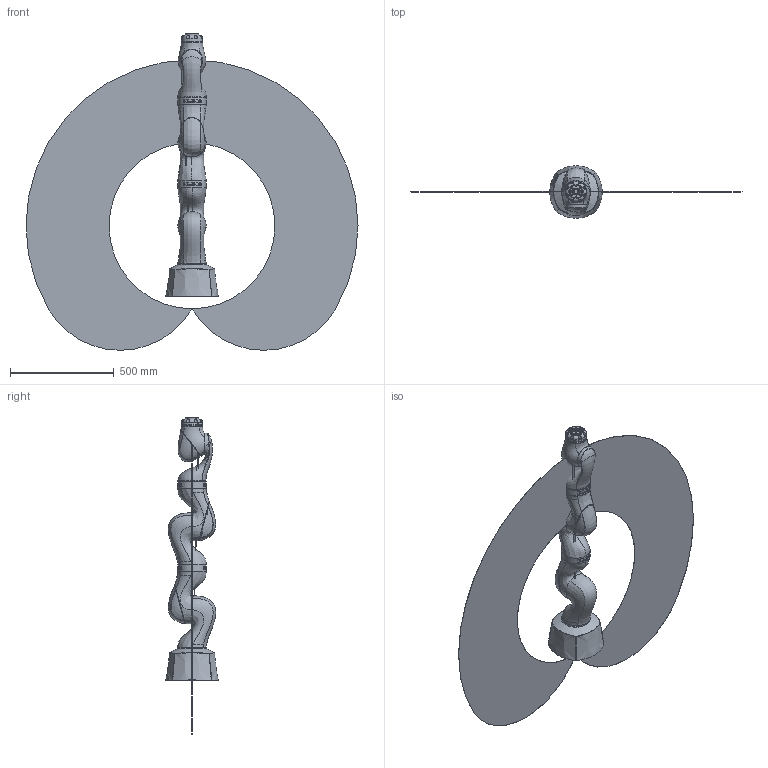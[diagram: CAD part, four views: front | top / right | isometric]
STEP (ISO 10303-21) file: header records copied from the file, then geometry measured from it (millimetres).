
FILE_DESCRIPTION(/* description */ (''),/* implementation_level */ '2;1');
FILE_NAME(/* name */ 'LBR-MED_7kg_toolconnector.stp',/* time_stamp */ '2022-03-18T13:56:08+01:00',/* author */ (''),/* organization */ (''),/* preprocessor_version */ 'ST-DEVELOPER v16.7',/* originating_system */ 'SIEMENS PLM Software NX 1919',/* authorisation */ '');
FILE_SCHEMA (('AUTOMOTIVE_DESIGN { 1 0 10303 214 3 1 1 1 }'));
Products named in the file (1): heck24283CC7xlqb
Bounding box: 1600 x 252.8 x 1526 mm (x, y, z)
Volume: 22330377.9 mm3; surface area: 3588745.7 mm2
Topology: 10 solids, 36 shells, 1220 faces, 2805 edges, 1785 vertices
Faces by surface type: plane 376, cylinder 341, bspline 245, cone 122, extrusion 96, sphere 35, torus 5
Full cylindrical faces by diameter (mm): 1.06 x26, 1.13 x26, 1.24 x26, 1.27 x26, 1.5 x26, 1.58 x26, 2.2 x16, 3 x1, 4 x8, 5.5 x8, 6 x8, 10 x4, 28 x1, 31.5 x1, 50 x12, 63 x1, 97 x2, 133 x1, 136 x2, 799.8 x1
Entity records: 91440 total; most frequent: CARTESIAN_POINT 65661, ORIENTED_EDGE 5360, DIRECTION 4662, EDGE_CURVE 2680, AXIS2_PLACEMENT_3D 1904, VERTEX_POINT 1753, EDGE_LOOP 1496, ADVANCED_FACE 1220
